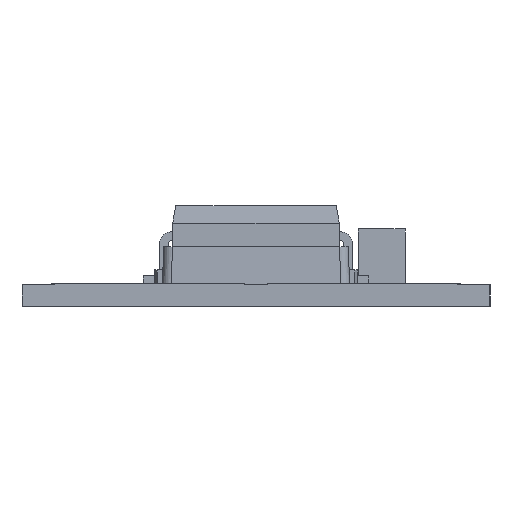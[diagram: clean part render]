
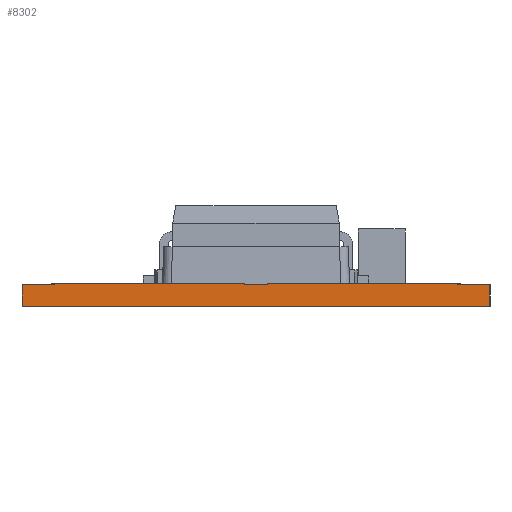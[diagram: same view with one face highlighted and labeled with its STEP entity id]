
A CAD part, left-side view. The second image highlights one B-rep face of the part: STEP entity #8302.
In plain terms, the highlighted planar face has unit normal (-1, 0, 0).
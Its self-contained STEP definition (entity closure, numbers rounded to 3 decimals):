
#1588=DIRECTION('',(0.,0.,-1.));
#1589=VECTOR('',#1588,0.375);
#1590=CARTESIAN_POINT('',(-31.25,-4.,0.375));
#1591=LINE('',#1590,#1589);
#1592=DIRECTION('',(0.,-1.,0.));
#1593=VECTOR('',#1592,8.);
#1594=CARTESIAN_POINT('',(-31.25,4.,0.));
#1595=LINE('',#1594,#1593);
#1596=DIRECTION('',(0.,0.,1.));
#1597=VECTOR('',#1596,0.375);
#1598=CARTESIAN_POINT('',(-31.25,4.,0.));
#1599=LINE('',#1598,#1597);
#1600=DIRECTION('',(0.,1.,0.));
#1601=VECTOR('',#1600,0.55);
#1602=CARTESIAN_POINT('',(-31.25,3.45,0.375));
#1603=LINE('',#1602,#1601);
#1604=DIRECTION('',(0.,1.,0.));
#1605=VECTOR('',#1604,3.25);
#1606=CARTESIAN_POINT('',(-31.25,0.2,0.395));
#1607=LINE('',#1606,#1605);
#1608=DIRECTION('',(0.,0.,1.));
#1609=VECTOR('',#1608,0.02);
#1610=CARTESIAN_POINT('',(-31.25,0.2,0.375));
#1611=LINE('',#1610,#1609);
#1612=DIRECTION('',(0.,1.,0.));
#1613=VECTOR('',#1612,0.4);
#1614=CARTESIAN_POINT('',(-31.25,-0.2,0.375));
#1615=LINE('',#1614,#1613);
#1616=DIRECTION('',(0.,1.,0.));
#1617=VECTOR('',#1616,3.25);
#1618=CARTESIAN_POINT('',(-31.25,-3.45,0.395));
#1619=LINE('',#1618,#1617);
#1620=DIRECTION('',(0.,0.,1.));
#1621=VECTOR('',#1620,0.02);
#1622=CARTESIAN_POINT('',(-31.25,-3.45,0.375));
#1623=LINE('',#1622,#1621);
#1624=DIRECTION('',(0.,1.,0.));
#1625=VECTOR('',#1624,0.55);
#1626=CARTESIAN_POINT('',(-31.25,-4.,0.375));
#1627=LINE('',#1626,#1625);
#1640=DIRECTION('',(0.,0.,1.));
#1641=VECTOR('',#1640,0.02);
#1642=CARTESIAN_POINT('',(-31.25,3.45,0.375));
#1643=LINE('',#1642,#1641);
#1664=DIRECTION('',(0.,0.,1.));
#1665=VECTOR('',#1664,0.02);
#1666=CARTESIAN_POINT('',(-31.25,-0.2,0.375));
#1667=LINE('',#1666,#1665);
#6140=CARTESIAN_POINT('',(-31.25,3.45,0.375));
#6141=CARTESIAN_POINT('',(-31.25,4.,0.375));
#6142=VERTEX_POINT('',#6140);
#6143=VERTEX_POINT('',#6141);
#6144=CARTESIAN_POINT('',(-31.25,0.2,0.395));
#6145=VERTEX_POINT('',#6144);
#6160=CARTESIAN_POINT('',(-31.25,3.45,0.395));
#6161=VERTEX_POINT('',#6160);
#6162=CARTESIAN_POINT('',(-31.25,-3.45,0.395));
#6163=CARTESIAN_POINT('',(-31.25,-0.2,0.395));
#6164=VERTEX_POINT('',#6162);
#6165=VERTEX_POINT('',#6163);
#6176=CARTESIAN_POINT('',(-31.25,-4.,0.375));
#6177=CARTESIAN_POINT('',(-31.25,-3.45,0.375));
#6178=VERTEX_POINT('',#6176);
#6179=VERTEX_POINT('',#6177);
#6186=CARTESIAN_POINT('',(-31.25,-0.2,0.375));
#6187=VERTEX_POINT('',#6186);
#6204=CARTESIAN_POINT('',(-31.25,0.2,0.375));
#6205=VERTEX_POINT('',#6204);
#6430=CARTESIAN_POINT('',(-31.25,4.,0.));
#6431=CARTESIAN_POINT('',(-31.25,-4.,0.));
#6432=VERTEX_POINT('',#6430);
#6433=VERTEX_POINT('',#6431);
#8275=CARTESIAN_POINT('',(-31.25,4.,0.375));
#8276=DIRECTION('',(-1.,0.,0.));
#8277=DIRECTION('',(0.,0.,1.));
#8278=AXIS2_PLACEMENT_3D('',#8275,#8276,#8277);
#8279=PLANE('',#8278);
#8281=ORIENTED_EDGE('',*,*,#8280,.T.);
#8283=ORIENTED_EDGE('',*,*,#8282,.F.);
#8284=ORIENTED_EDGE('',*,*,#8266,.T.);
#8285=ORIENTED_EDGE('',*,*,#7580,.F.);
#8287=ORIENTED_EDGE('',*,*,#8286,.T.);
#8289=ORIENTED_EDGE('',*,*,#8288,.F.);
#8291=ORIENTED_EDGE('',*,*,#8290,.F.);
#8292=ORIENTED_EDGE('',*,*,#7572,.F.);
#8294=ORIENTED_EDGE('',*,*,#8293,.T.);
#8296=ORIENTED_EDGE('',*,*,#8295,.F.);
#8298=ORIENTED_EDGE('',*,*,#8297,.F.);
#8299=ORIENTED_EDGE('',*,*,#7564,.F.);
#8300=EDGE_LOOP('',(#8281,#8283,#8284,#8285,#8287,#8289,#8291,#8292,#8294,#8296,
#8298,#8299));
#8301=FACE_OUTER_BOUND('',#8300,.F.);
#8302=ADVANCED_FACE('',(#8301),#8279,.T.);
#7564=EDGE_CURVE('',#6178,#6179,#1627,.T.);
#7572=EDGE_CURVE('',#6187,#6205,#1615,.T.);
#7580=EDGE_CURVE('',#6142,#6143,#1603,.T.);
#8266=EDGE_CURVE('',#6432,#6143,#1599,.T.);
#8280=EDGE_CURVE('',#6178,#6433,#1591,.T.);
#8282=EDGE_CURVE('',#6432,#6433,#1595,.T.);
#8286=EDGE_CURVE('',#6142,#6161,#1643,.T.);
#8288=EDGE_CURVE('',#6145,#6161,#1607,.T.);
#8290=EDGE_CURVE('',#6205,#6145,#1611,.T.);
#8293=EDGE_CURVE('',#6187,#6165,#1667,.T.);
#8295=EDGE_CURVE('',#6164,#6165,#1619,.T.);
#8297=EDGE_CURVE('',#6179,#6164,#1623,.T.);
